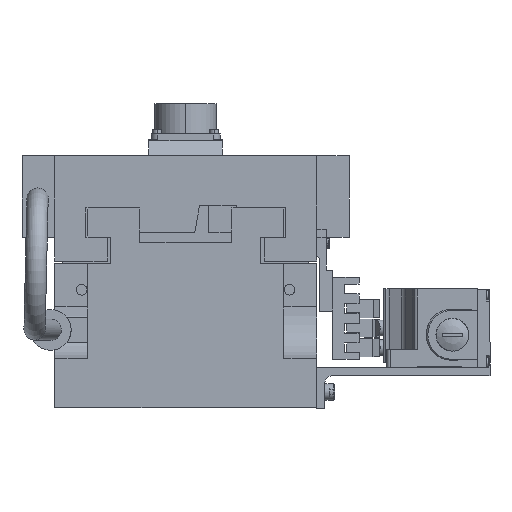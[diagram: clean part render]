
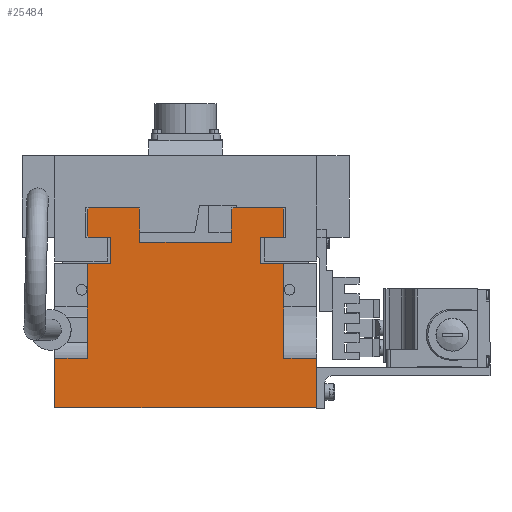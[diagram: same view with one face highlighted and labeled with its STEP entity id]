
A CAD part, front view. The second image highlights one B-rep face of the part: STEP entity #25484.
In plain terms, the highlighted planar face has unit normal (0, -1, 0).
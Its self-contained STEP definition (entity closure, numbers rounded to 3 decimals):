
#22193=CARTESIAN_POINT('',(40.605,-401.707,46.715));
#22194=VERTEX_POINT('',#22193);
#22201=CARTESIAN_POINT('',(40.605,-401.707,66.715));
#22202=VERTEX_POINT('',#22201);
#22203=CARTESIAN_POINT('',(40.605,-401.707,46.715));
#22204=DIRECTION('',(0.0,0.0,1.0));
#22205=VECTOR('',#22204,20.0);
#22206=LINE('',#22203,#22205);
#22207=EDGE_CURVE('',#22194,#22202,#22206,.T.);
#22633=CARTESIAN_POINT('',(-15.395,-401.707,66.715));
#22634=VERTEX_POINT('',#22633);
#22641=CARTESIAN_POINT('',(-15.395,-401.707,46.715));
#22642=VERTEX_POINT('',#22641);
#22643=CARTESIAN_POINT('',(-15.395,-401.707,66.715));
#22644=DIRECTION('',(0.0,0.0,-1.0));
#22645=VECTOR('',#22644,20.0);
#22646=LINE('',#22643,#22645);
#22647=EDGE_CURVE('',#22634,#22642,#22646,.T.);
#24724=CARTESIAN_POINT('',(-46.395,-401.707,67.715));
#24725=VERTEX_POINT('',#24724);
#24732=CARTESIAN_POINT('',(-16.395,-401.707,67.715));
#24733=VERTEX_POINT('',#24732);
#24734=CARTESIAN_POINT('',(-46.395,-401.707,67.715));
#24735=DIRECTION('',(1.0,0.0,0.0));
#24736=VECTOR('',#24735,30.);
#24737=LINE('',#24734,#24736);
#24738=EDGE_CURVE('',#24725,#24733,#24737,.T.);
#25054=CARTESIAN_POINT('',(-47.395,-401.707,-24.285));
#25055=VERTEX_POINT('',#25054);
#25062=CARTESIAN_POINT('',(-47.395,-401.707,33.715));
#25063=VERTEX_POINT('',#25062);
#25064=CARTESIAN_POINT('',(-47.395,-401.707,33.715));
#25065=DIRECTION('',(0.0,0.0,-1.0));
#25066=VECTOR('',#25065,58.);
#25067=LINE('',#25064,#25066);
#25068=EDGE_CURVE('',#25063,#25055,#25067,.T.);
#25099=CARTESIAN_POINT('',(-67.395,-401.707,-24.285));
#25100=VERTEX_POINT('',#25099);
#25107=CARTESIAN_POINT('',(-47.395,-401.707,-24.285));
#25108=DIRECTION('',(-1.0,0.0,0.0));
#25109=VECTOR('',#25108,20.);
#25110=LINE('',#25107,#25109);
#25111=EDGE_CURVE('',#25055,#25100,#25110,.T.);
#25174=CARTESIAN_POINT('',(72.605,-401.707,-24.285));
#25175=VERTEX_POINT('',#25174);
#25182=CARTESIAN_POINT('',(92.605,-401.707,-24.285));
#25183=VERTEX_POINT('',#25182);
#25184=CARTESIAN_POINT('',(92.605,-401.707,-24.285));
#25185=DIRECTION('',(-1.0,0.0,0.0));
#25186=VECTOR('',#25185,20.);
#25187=LINE('',#25184,#25186);
#25188=EDGE_CURVE('',#25183,#25175,#25187,.T.);
#25249=CARTESIAN_POINT('',(72.605,-401.707,33.715));
#25250=VERTEX_POINT('',#25249);
#25257=CARTESIAN_POINT('',(72.605,-401.707,-24.285));
#25258=DIRECTION('',(0.0,0.0,1.0));
#25259=VECTOR('',#25258,58.);
#25260=LINE('',#25257,#25259);
#25261=EDGE_CURVE('',#25175,#25250,#25260,.T.);
#25318=CARTESIAN_POINT('',(-67.395,-401.707,-54.285));
#25319=VERTEX_POINT('',#25318);
#25326=CARTESIAN_POINT('',(-67.395,-401.707,-54.285));
#25327=DIRECTION('',(0.0,0.0,1.0));
#25328=VECTOR('',#25327,30.);
#25329=LINE('',#25326,#25328);
#25330=EDGE_CURVE('',#25319,#25100,#25329,.T.);
#25335=CARTESIAN_POINT('',(12.605,-401.707,9.049));
#25336=DIRECTION('',(0.0,-1.0,0.0));
#25337=DIRECTION('',(1.0,0.0,0.0));
#25338=AXIS2_PLACEMENT_3D('',#25335,#25336,#25337);
#25339=PLANE('',#25338);
#25340=ORIENTED_EDGE('',*,*,#25068,.T.);
#25341=ORIENTED_EDGE('',*,*,#25111,.T.);
#25342=ORIENTED_EDGE('',*,*,#25330,.F.);
#25343=CARTESIAN_POINT('',(92.605,-401.707,-54.285));
#25344=VERTEX_POINT('',#25343);
#25345=CARTESIAN_POINT('',(92.605,-401.707,-54.285));
#25346=DIRECTION('',(-1.0,0.0,0.0));
#25347=VECTOR('',#25346,160.0);
#25348=LINE('',#25345,#25347);
#25349=EDGE_CURVE('',#25344,#25319,#25348,.T.);
#25350=ORIENTED_EDGE('',*,*,#25349,.F.);
#25351=CARTESIAN_POINT('',(92.605,-401.707,-24.285));
#25352=DIRECTION('',(0.0,0.0,-1.0));
#25353=VECTOR('',#25352,30.);
#25354=LINE('',#25351,#25353);
#25355=EDGE_CURVE('',#25183,#25344,#25354,.T.);
#25356=ORIENTED_EDGE('',*,*,#25355,.F.);
#25357=ORIENTED_EDGE('',*,*,#25188,.T.);
#25358=ORIENTED_EDGE('',*,*,#25261,.T.);
#25359=CARTESIAN_POINT('',(58.605,-401.707,33.715));
#25360=VERTEX_POINT('',#25359);
#25361=CARTESIAN_POINT('',(58.605,-401.707,33.715));
#25362=DIRECTION('',(1.0,0.0,0.0));
#25363=VECTOR('',#25362,14.0);
#25364=LINE('',#25361,#25363);
#25365=EDGE_CURVE('',#25360,#25250,#25364,.T.);
#25366=ORIENTED_EDGE('',*,*,#25365,.F.);
#25367=CARTESIAN_POINT('',(58.605,-401.707,49.715));
#25368=VERTEX_POINT('',#25367);
#25369=CARTESIAN_POINT('',(58.605,-401.707,49.715));
#25370=DIRECTION('',(0.0,0.0,-1.0));
#25371=VECTOR('',#25370,16.);
#25372=LINE('',#25369,#25371);
#25373=EDGE_CURVE('',#25368,#25360,#25372,.T.);
#25374=ORIENTED_EDGE('',*,*,#25373,.F.);
#25375=CARTESIAN_POINT('',(71.605,-401.707,49.715));
#25376=VERTEX_POINT('',#25375);
#25377=CARTESIAN_POINT('',(71.605,-401.707,49.715));
#25378=DIRECTION('',(-1.0,0.0,0.0));
#25379=VECTOR('',#25378,13.);
#25380=LINE('',#25377,#25379);
#25381=EDGE_CURVE('',#25376,#25368,#25380,.T.);
#25382=ORIENTED_EDGE('',*,*,#25381,.F.);
#25383=CARTESIAN_POINT('',(72.605,-401.707,50.715));
#25384=VERTEX_POINT('',#25383);
#25385=CARTESIAN_POINT('',(72.605,-401.707,50.715));
#25386=DIRECTION('',(-0.707,0.0,-0.707));
#25387=VECTOR('',#25386,1.414);
#25388=LINE('',#25385,#25387);
#25389=EDGE_CURVE('',#25384,#25376,#25388,.T.);
#25390=ORIENTED_EDGE('',*,*,#25389,.F.);
#25391=CARTESIAN_POINT('',(72.605,-401.707,66.715));
#25392=VERTEX_POINT('',#25391);
#25393=CARTESIAN_POINT('',(72.605,-401.707,66.715));
#25394=DIRECTION('',(0.0,0.0,-1.0));
#25395=VECTOR('',#25394,16.);
#25396=LINE('',#25393,#25395);
#25397=EDGE_CURVE('',#25392,#25384,#25396,.T.);
#25398=ORIENTED_EDGE('',*,*,#25397,.F.);
#25399=CARTESIAN_POINT('',(71.605,-401.707,67.715));
#25400=VERTEX_POINT('',#25399);
#25401=CARTESIAN_POINT('',(71.605,-401.707,67.715));
#25402=DIRECTION('',(0.707,0.0,-0.707));
#25403=VECTOR('',#25402,1.414);
#25404=LINE('',#25401,#25403);
#25405=EDGE_CURVE('',#25400,#25392,#25404,.T.);
#25406=ORIENTED_EDGE('',*,*,#25405,.F.);
#25407=CARTESIAN_POINT('',(41.605,-401.707,67.715));
#25408=VERTEX_POINT('',#25407);
#25409=CARTESIAN_POINT('',(41.605,-401.707,67.715));
#25410=DIRECTION('',(1.0,0.0,0.0));
#25411=VECTOR('',#25410,30.0);
#25412=LINE('',#25409,#25411);
#25413=EDGE_CURVE('',#25408,#25400,#25412,.T.);
#25414=ORIENTED_EDGE('',*,*,#25413,.F.);
#25415=CARTESIAN_POINT('',(40.605,-401.707,66.715));
#25416=DIRECTION('',(0.707,0.0,0.707));
#25417=VECTOR('',#25416,1.414);
#25418=LINE('',#25415,#25417);
#25419=EDGE_CURVE('',#22202,#25408,#25418,.T.);
#25420=ORIENTED_EDGE('',*,*,#25419,.F.);
#25421=ORIENTED_EDGE('',*,*,#22207,.F.);
#25422=CARTESIAN_POINT('',(-15.395,-401.707,46.715));
#25423=DIRECTION('',(1.0,0.0,0.0));
#25424=VECTOR('',#25423,56.0);
#25425=LINE('',#25422,#25424);
#25426=EDGE_CURVE('',#22642,#22194,#25425,.T.);
#25427=ORIENTED_EDGE('',*,*,#25426,.F.);
#25428=ORIENTED_EDGE('',*,*,#22647,.F.);
#25429=CARTESIAN_POINT('',(-16.395,-401.707,67.715));
#25430=DIRECTION('',(0.707,0.0,-0.707));
#25431=VECTOR('',#25430,1.414);
#25432=LINE('',#25429,#25431);
#25433=EDGE_CURVE('',#24733,#22634,#25432,.T.);
#25434=ORIENTED_EDGE('',*,*,#25433,.F.);
#25435=ORIENTED_EDGE('',*,*,#24738,.F.);
#25436=CARTESIAN_POINT('',(-47.395,-401.707,66.715));
#25437=VERTEX_POINT('',#25436);
#25438=CARTESIAN_POINT('',(-47.395,-401.707,66.715));
#25439=DIRECTION('',(0.707,0.0,0.707));
#25440=VECTOR('',#25439,1.414);
#25441=LINE('',#25438,#25440);
#25442=EDGE_CURVE('',#25437,#24725,#25441,.T.);
#25443=ORIENTED_EDGE('',*,*,#25442,.F.);
#25444=CARTESIAN_POINT('',(-47.395,-401.707,50.715));
#25445=VERTEX_POINT('',#25444);
#25446=CARTESIAN_POINT('',(-47.395,-401.707,50.715));
#25447=DIRECTION('',(0.0,0.0,1.0));
#25448=VECTOR('',#25447,16.);
#25449=LINE('',#25446,#25448);
#25450=EDGE_CURVE('',#25445,#25437,#25449,.T.);
#25451=ORIENTED_EDGE('',*,*,#25450,.F.);
#25452=CARTESIAN_POINT('',(-46.395,-401.707,49.715));
#25453=VERTEX_POINT('',#25452);
#25454=CARTESIAN_POINT('',(-46.395,-401.707,49.715));
#25455=DIRECTION('',(-0.707,0.0,0.707));
#25456=VECTOR('',#25455,1.414);
#25457=LINE('',#25454,#25456);
#25458=EDGE_CURVE('',#25453,#25445,#25457,.T.);
#25459=ORIENTED_EDGE('',*,*,#25458,.F.);
#25460=CARTESIAN_POINT('',(-33.395,-401.707,49.715));
#25461=VERTEX_POINT('',#25460);
#25462=CARTESIAN_POINT('',(-33.395,-401.707,49.715));
#25463=DIRECTION('',(-1.0,0.0,0.0));
#25464=VECTOR('',#25463,13.);
#25465=LINE('',#25462,#25464);
#25466=EDGE_CURVE('',#25461,#25453,#25465,.T.);
#25467=ORIENTED_EDGE('',*,*,#25466,.F.);
#25468=CARTESIAN_POINT('',(-33.395,-401.707,33.715));
#25469=VERTEX_POINT('',#25468);
#25470=CARTESIAN_POINT('',(-33.395,-401.707,33.715));
#25471=DIRECTION('',(0.0,0.0,1.0));
#25472=VECTOR('',#25471,16.);
#25473=LINE('',#25470,#25472);
#25474=EDGE_CURVE('',#25469,#25461,#25473,.T.);
#25475=ORIENTED_EDGE('',*,*,#25474,.F.);
#25476=CARTESIAN_POINT('',(-47.395,-401.707,33.715));
#25477=DIRECTION('',(1.0,0.0,0.0));
#25478=VECTOR('',#25477,14.);
#25479=LINE('',#25476,#25478);
#25480=EDGE_CURVE('',#25063,#25469,#25479,.T.);
#25481=ORIENTED_EDGE('',*,*,#25480,.F.);
#25482=EDGE_LOOP('',(#25340,#25341,#25342,#25350,#25356,#25357,#25358,#25366,#25374,#25382,#25390,#25398,#25406,#25414,#25420,#25421,#25427,#25428,#25434,#25435,#25443,#25451,#25459,#25467,#25475,#25481));
#25483=FACE_OUTER_BOUND('',#25482,.T.);
#25484=ADVANCED_FACE('',(#25483),#25339,.T.);
